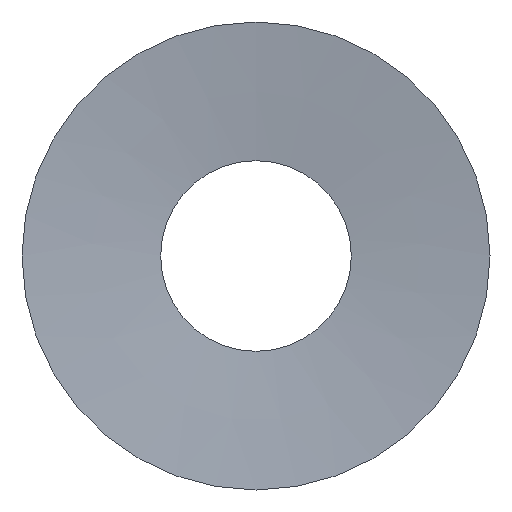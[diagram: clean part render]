
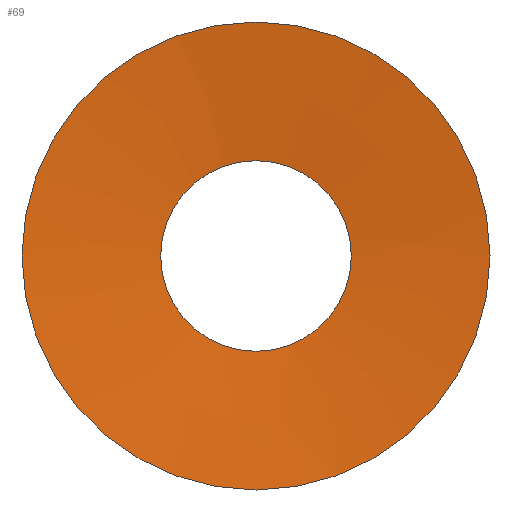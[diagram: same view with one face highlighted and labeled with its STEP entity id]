
A CAD part, front view. The second image highlights one B-rep face of the part: STEP entity #69.
In plain terms, the highlighted conical face has half-angle 83.782 degrees and reference radius 14.075 mm.
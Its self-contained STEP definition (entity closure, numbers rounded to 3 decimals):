
#19=FACE_OUTER_BOUND('',#23,.T.);
#23=EDGE_LOOP('',(#57,#58,#59,#60));
#27=LINE('',#137,#31);
#31=VECTOR('',#118,14.075);
#35=CIRCLE('',#98,8.15);
#36=CIRCLE('',#100,20.);
#39=VERTEX_POINT('',#132);
#40=VERTEX_POINT('',#136);
#45=EDGE_CURVE('',#39,#39,#35,.T.);
#46=EDGE_CURVE('',#39,#40,#27,.T.);
#47=EDGE_CURVE('',#40,#40,#36,.T.);
#57=ORIENTED_EDGE('',*,*,#45,.T.);
#58=ORIENTED_EDGE('',*,*,#46,.T.);
#59=ORIENTED_EDGE('',*,*,#47,.F.);
#60=ORIENTED_EDGE('',*,*,#46,.F.);
#66=CONICAL_SURFACE('',#99,14.075,1.462);
#69=ADVANCED_FACE('',(#19),#66,.F.);
#98=AXIS2_PLACEMENT_3D('',#134,#114,#115);
#99=AXIS2_PLACEMENT_3D('',#135,#116,#117);
#100=AXIS2_PLACEMENT_3D('',#138,#119,#120);
#114=DIRECTION('center_axis',(0.,1.,0.));
#115=DIRECTION('ref_axis',(1.,0.,0.));
#116=DIRECTION('center_axis',(0.,-1.,0.));
#117=DIRECTION('ref_axis',(0.,0.,-1.));
#118=DIRECTION('',(0.,-0.108,0.994));
#119=DIRECTION('center_axis',(0.,1.,0.));
#120=DIRECTION('ref_axis',(1.,0.,0.));
#132=CARTESIAN_POINT('',(0.,1.291,8.15));
#134=CARTESIAN_POINT('Origin',(0.,1.291,0.));
#135=CARTESIAN_POINT('Origin',(0.,0.646,0.));
#136=CARTESIAN_POINT('',(0.,0.,20.));
#137=CARTESIAN_POINT('',(0.,0.646,14.075));
#138=CARTESIAN_POINT('Origin',(0.,0.,0.));
